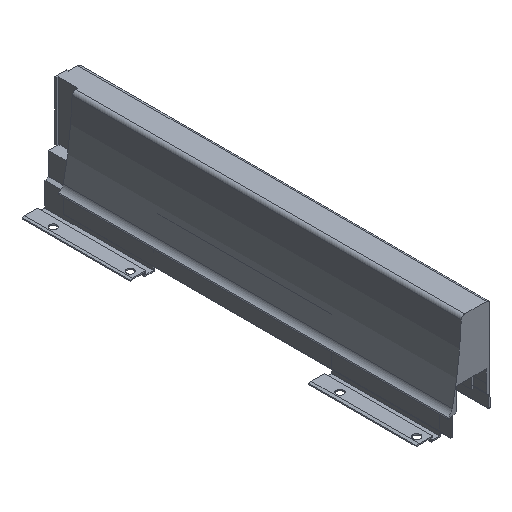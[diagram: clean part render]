
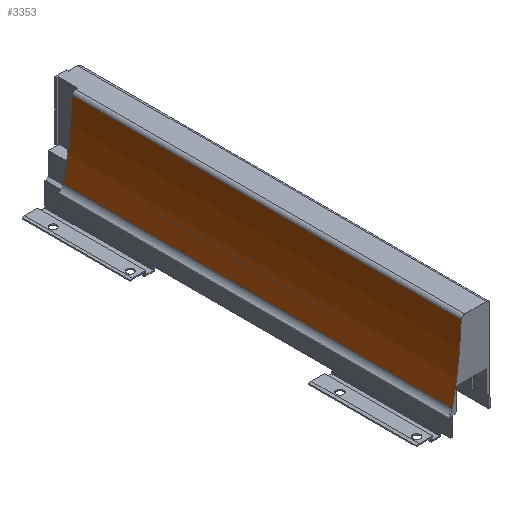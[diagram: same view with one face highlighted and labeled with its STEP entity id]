
A CAD part, isometric view. The second image highlights one B-rep face of the part: STEP entity #3353.
In plain terms, the highlighted cylindrical face has radius 350 mm (diameter 700 mm), a partial arc.
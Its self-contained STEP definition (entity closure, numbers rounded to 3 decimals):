
#32 = AXIS2_PLACEMENT_3D ( 'NONE', #2440, #2452, #2453 ) ;
#47 = EDGE_CURVE ( 'NONE', #1607, #2995, #3050, .T. ) ;
#204 = AXIS2_PLACEMENT_3D ( 'NONE', #868, #867, #866 ) ;
#224 = AXIS2_PLACEMENT_3D ( 'NONE', #2676, #2678, #2679 ) ;
#297 = EDGE_CURVE ( 'NONE', #2995, #3117, #2669, .T. ) ;
#308 = EDGE_CURVE ( 'NONE', #3118, #3117, #1637, .T. ) ;
#317 = EDGE_CURVE ( 'NONE', #1607, #3118, #1650, .T. ) ;
#866 = DIRECTION ( 'NONE',  ( 1., 0., 0. ) ) ;
#867 = DIRECTION ( 'NONE',  ( 0., -1., 0. ) ) ;
#868 = CARTESIAN_POINT ( 'NONE',  ( -369.661, 340., 58.879 ) ) ;
#1199 = ORIENTED_EDGE ( 'NONE', *, *, #47, .T. ) ;
#1200 = ORIENTED_EDGE ( 'NONE', *, *, #297, .T. ) ;
#1320 = EDGE_LOOP ( 'NONE', ( #1335, #1199, #1200, #1337 ) ) ;
#1335 = ORIENTED_EDGE ( 'NONE', *, *, #317, .F. ) ;
#1337 = ORIENTED_EDGE ( 'NONE', *, *, #308, .F. ) ;
#1607 = VERTEX_POINT ( 'NONE', #2032 ) ;
#1637 = CIRCLE ( 'NONE', #32, 350. ) ;
#1650 = LINE ( 'NONE', #2468, #1651 ) ;
#1651 = VECTOR ( 'NONE', #2469, 1000. ) ;
#1724 = CYLINDRICAL_SURFACE ( 'NONE', #204, 350. ) ;
#1736 = FACE_OUTER_BOUND ( 'NONE', #1320, .T. ) ;
#2032 = CARTESIAN_POINT ( 'NONE',  ( -19.877, 323.8, 46.603 ) ) ;
#2078 = CARTESIAN_POINT ( 'NONE',  ( -27.28, 323.8, -13.751 ) ) ;
#2081 = CARTESIAN_POINT ( 'NONE',  ( -27.28, 0., -13.751 ) ) ;
#2082 = CARTESIAN_POINT ( 'NONE',  ( -19.877, 0., 46.603 ) ) ;
#2429 = CARTESIAN_POINT ( 'NONE',  ( -27.28, 340., -13.751 ) ) ;
#2430 = DIRECTION ( 'NONE',  ( 0., -1., 0. ) ) ;
#2440 = CARTESIAN_POINT ( 'NONE',  ( -369.661, 0., 58.879 ) ) ;
#2452 = DIRECTION ( 'NONE',  ( 0., 1., 0. ) ) ;
#2453 = DIRECTION ( 'NONE',  ( -1., 0., 0. ) ) ;
#2468 = CARTESIAN_POINT ( 'NONE',  ( -19.877, 340., 46.603 ) ) ;
#2469 = DIRECTION ( 'NONE',  ( 0., -1., 0. ) ) ;
#2669 = LINE ( 'NONE', #2429, #2670 ) ;
#2670 = VECTOR ( 'NONE', #2430, 1000. ) ;
#2676 = CARTESIAN_POINT ( 'NONE',  ( -369.661, 323.8, 58.879 ) ) ;
#2678 = DIRECTION ( 'NONE',  ( 0., 1., 0. ) ) ;
#2679 = DIRECTION ( 'NONE',  ( -1., 0., 0. ) ) ;
#2995 = VERTEX_POINT ( 'NONE', #2078 ) ;
#3050 = CIRCLE ( 'NONE', #224, 350. ) ;
#3117 = VERTEX_POINT ( 'NONE', #2081 ) ;
#3118 = VERTEX_POINT ( 'NONE', #2082 ) ;
#3353 = ADVANCED_FACE ( 'NONE', ( #1736 ), #1724, .F. ) ;
